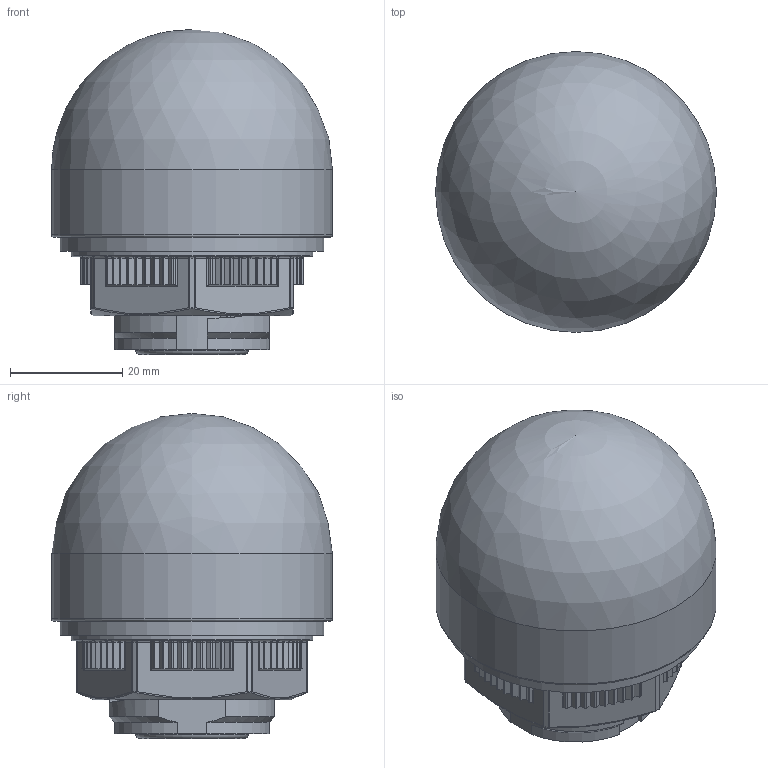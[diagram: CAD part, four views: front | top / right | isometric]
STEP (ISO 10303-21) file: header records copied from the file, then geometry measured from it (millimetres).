
FILE_DESCRIPTION(('STEP AP214'), '1');
FILE_NAME('Äàò÷èê â ñáîðå 2', '', ('UNSPECIFIED'), ('UNSPECIFIED'), 'C3D Converter', 'C3D Toolkit', '');
FILE_SCHEMA(('AUTOMOTIVE_DESIGN { 1 0 10303 214 3 1 1}'));
Length unit declared in the file: millimetre
Assembly tree (5 placements, depth 2):
  (unnamed)
    (unnamed)
    (unnamed)
    (unnamed)
    (unnamed)
    (unnamed)
Bounding box: 50 x 50 x 57.89 mm (x, y, z)
Volume: 45722.7 mm3; surface area: 24372.2 mm2
Topology: 5 solids, 6 shells, 492 faces, 1249 edges, 761 vertices
Faces by surface type: cylinder 232, plane 149, torus 82, bspline 16, cone 9, sphere 4
Full cylindrical faces by diameter (mm): 3.413 x1, 12 x2, 24 x1, 28.376 x1, 30 x1, 30.5 x2, 43 x1, 47 x1, 50 x1
Entity records: 21282 total; most frequent: CARTESIAN_POINT 5492, DIRECTION 2449, ORIENTED_EDGE 2376, EDGE_CURVE 1190, AXIS2_PLACEMENT_3D 913, VERTEX_POINT 734, LINE 623, VECTOR 623
